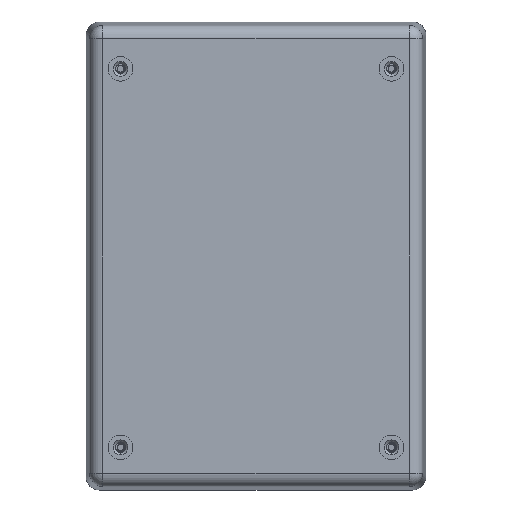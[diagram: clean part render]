
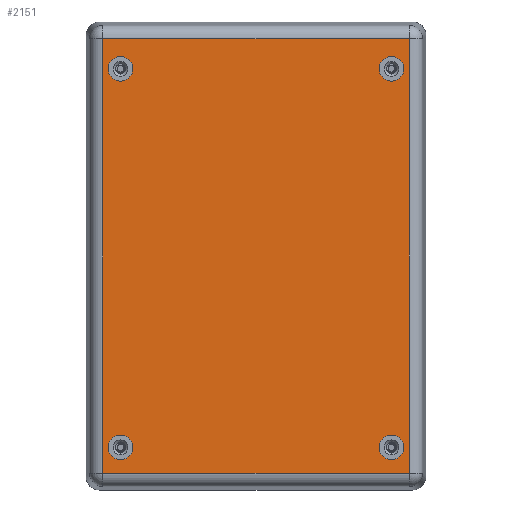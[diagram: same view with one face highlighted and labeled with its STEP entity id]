
A CAD part, front view. The second image highlights one B-rep face of the part: STEP entity #2151.
In plain terms, the highlighted planar face has unit normal (0, -1, 0).
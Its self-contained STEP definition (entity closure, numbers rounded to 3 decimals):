
#69 = CARTESIAN_POINT ( 'NONE',  ( -62.135, -44.5, 0. ) ) ;
#89 = VERTEX_POINT ( 'NONE', #13943 ) ;
#182 = CARTESIAN_POINT ( 'NONE',  ( 55., -44.5, 81. ) ) ;
#241 = EDGE_LOOP ( 'NONE', ( #7241, #12912 ) ) ;
#374 = DIRECTION ( 'NONE',  ( 0., 0., -1. ) ) ;
#388 = DIRECTION ( 'NONE',  ( 0., 0., -1. ) ) ;
#624 = ORIENTED_EDGE ( 'NONE', *, *, #13776, .T. ) ;
#735 = CARTESIAN_POINT ( 'NONE',  ( -55., -44.5, -82.7 ) ) ;
#783 = ORIENTED_EDGE ( 'NONE', *, *, #1990, .T. ) ;
#1033 = FACE_BOUND ( 'NONE', #241, .T. ) ;
#1038 = DIRECTION ( 'NONE',  ( 0., 0., -1. ) ) ;
#1122 = DIRECTION ( 'NONE',  ( 0., -1., 0. ) ) ;
#1351 = ORIENTED_EDGE ( 'NONE', *, *, #3649, .F. ) ;
#1359 = EDGE_CURVE ( 'NONE', #89, #14740, #11437, .T. ) ;
#1471 = CARTESIAN_POINT ( 'NONE',  ( 0., -44.5, 88.135 ) ) ;
#1603 = ORIENTED_EDGE ( 'NONE', *, *, #12258, .F. ) ;
#1675 = VERTEX_POINT ( 'NONE', #182 ) ;
#1754 = AXIS2_PLACEMENT_3D ( 'NONE', #10100, #3897, #10151 ) ;
#1765 = EDGE_CURVE ( 'NONE', #9024, #7697, #14102, .T. ) ;
#1822 = CARTESIAN_POINT ( 'NONE',  ( 62.135, -44.5, -88.135 ) ) ;
#1912 = DIRECTION ( 'NONE',  ( 1., 0., 0. ) ) ;
#1990 = EDGE_CURVE ( 'NONE', #7697, #15799, #5491, .T. ) ;
#2123 = CARTESIAN_POINT ( 'NONE',  ( -55., -44.5, -77.7 ) ) ;
#2151 = ADVANCED_FACE ( 'NONE', ( #4272, #1033, #10195, #13256, #3675 ), #7651, .T. ) ;
#2454 = EDGE_LOOP ( 'NONE', ( #14625, #1603 ) ) ;
#2470 = EDGE_CURVE ( 'NONE', #14098, #8438, #4582, .T. ) ;
#2744 = CARTESIAN_POINT ( 'NONE',  ( 0., -44.5, 0. ) ) ;
#2917 = VERTEX_POINT ( 'NONE', #6393 ) ;
#3007 = DIRECTION ( 'NONE',  ( 0., 0., -1. ) ) ;
#3191 = CIRCLE ( 'NONE', #1754, 5. ) ;
#3504 = VERTEX_POINT ( 'NONE', #1822 ) ;
#3649 = EDGE_CURVE ( 'NONE', #6612, #2917, #12196, .T. ) ;
#3675 = FACE_OUTER_BOUND ( 'NONE', #10745, .T. ) ;
#3897 = DIRECTION ( 'NONE',  ( 0., -1., 0. ) ) ;
#4045 = EDGE_CURVE ( 'NONE', #8438, #14098, #3191, .T. ) ;
#4272 = FACE_BOUND ( 'NONE', #2454, .T. ) ;
#4354 = CARTESIAN_POINT ( 'NONE',  ( -55., -44.5, 76. ) ) ;
#4464 = ORIENTED_EDGE ( 'NONE', *, *, #4704, .F. ) ;
#4582 = CIRCLE ( 'NONE', #8190, 5. ) ;
#4704 = EDGE_CURVE ( 'NONE', #14740, #89, #12564, .T. ) ;
#4916 = VECTOR ( 'NONE', #8547, 1000. ) ;
#5030 = LINE ( 'NONE', #11656, #11918 ) ;
#5128 = ORIENTED_EDGE ( 'NONE', *, *, #1765, .T. ) ;
#5283 = CARTESIAN_POINT ( 'NONE',  ( -62.135, -44.5, 88.135 ) ) ;
#5491 = LINE ( 'NONE', #69, #4916 ) ;
#5542 = AXIS2_PLACEMENT_3D ( 'NONE', #9103, #13863, #3007 ) ;
#6393 = CARTESIAN_POINT ( 'NONE',  ( -55., -44.5, -72.7 ) ) ;
#6532 = CARTESIAN_POINT ( 'NONE',  ( 55., -44.5, 76. ) ) ;
#6612 = VERTEX_POINT ( 'NONE', #735 ) ;
#6697 = CARTESIAN_POINT ( 'NONE',  ( 55., -44.5, -82.7 ) ) ;
#6698 = VECTOR ( 'NONE', #1912, 1000. ) ;
#6804 = CARTESIAN_POINT ( 'NONE',  ( -55., -44.5, -77.7 ) ) ;
#7241 = ORIENTED_EDGE ( 'NONE', *, *, #2470, .F. ) ;
#7651 = PLANE ( 'NONE',  #14918 ) ;
#7697 = VERTEX_POINT ( 'NONE', #5283 ) ;
#7700 = DIRECTION ( 'NONE',  ( 0., -1., 0. ) ) ;
#7837 = LINE ( 'NONE', #14209, #6698 ) ;
#7853 = DIRECTION ( 'NONE',  ( 0., -1., 0. ) ) ;
#7981 = EDGE_LOOP ( 'NONE', ( #14844, #4464 ) ) ;
#8026 = DIRECTION ( 'NONE',  ( 0., 0., -1. ) ) ;
#8119 = DIRECTION ( 'NONE',  ( 0., 0., 1. ) ) ;
#8190 = AXIS2_PLACEMENT_3D ( 'NONE', #13607, #13827, #374 ) ;
#8438 = VERTEX_POINT ( 'NONE', #10285 ) ;
#8547 = DIRECTION ( 'NONE',  ( 0., 0., -1. ) ) ;
#8719 = AXIS2_PLACEMENT_3D ( 'NONE', #2123, #15758, #1038 ) ;
#9024 = VERTEX_POINT ( 'NONE', #12408 ) ;
#9085 = DIRECTION ( 'NONE',  ( 0., 0., -1. ) ) ;
#9103 = CARTESIAN_POINT ( 'NONE',  ( -55., -44.5, 76. ) ) ;
#9935 = AXIS2_PLACEMENT_3D ( 'NONE', #6532, #7853, #9085 ) ;
#10076 = CARTESIAN_POINT ( 'NONE',  ( -55., -44.5, 81. ) ) ;
#10099 = VECTOR ( 'NONE', #13544, 1000. ) ;
#10100 = CARTESIAN_POINT ( 'NONE',  ( 55., -44.5, -77.7 ) ) ;
#10151 = DIRECTION ( 'NONE',  ( 0., 0., -1. ) ) ;
#10195 = FACE_BOUND ( 'NONE', #10607, .T. ) ;
#10198 = CIRCLE ( 'NONE', #11673, 5. ) ;
#10285 = CARTESIAN_POINT ( 'NONE',  ( 55., -44.5, -72.7 ) ) ;
#10473 = DIRECTION ( 'NONE',  ( 0., -1., 0. ) ) ;
#10607 = EDGE_LOOP ( 'NONE', ( #1351, #11934 ) ) ;
#10712 = EDGE_CURVE ( 'NONE', #3504, #9024, #5030, .T. ) ;
#10745 = EDGE_LOOP ( 'NONE', ( #14700, #5128, #783, #624 ) ) ;
#10777 = CARTESIAN_POINT ( 'NONE',  ( 55., -44.5, 76. ) ) ;
#10921 = DIRECTION ( 'NONE',  ( 0., 0., -1. ) ) ;
#11120 = AXIS2_PLACEMENT_3D ( 'NONE', #4354, #12911, #8026 ) ;
#11249 = CIRCLE ( 'NONE', #8719, 5. ) ;
#11437 = CIRCLE ( 'NONE', #11120, 5. ) ;
#11656 = CARTESIAN_POINT ( 'NONE',  ( 62.135, -44.5, 0. ) ) ;
#11659 = DIRECTION ( 'NONE',  ( 0., 0., -1. ) ) ;
#11673 = AXIS2_PLACEMENT_3D ( 'NONE', #10777, #1122, #10921 ) ;
#11843 = CARTESIAN_POINT ( 'NONE',  ( 55., -44.5, 71. ) ) ;
#11918 = VECTOR ( 'NONE', #8119, 1000. ) ;
#11934 = ORIENTED_EDGE ( 'NONE', *, *, #14262, .F. ) ;
#12196 = CIRCLE ( 'NONE', #15774, 5. ) ;
#12258 = EDGE_CURVE ( 'NONE', #1675, #12886, #10198, .T. ) ;
#12408 = CARTESIAN_POINT ( 'NONE',  ( 62.135, -44.5, 88.135 ) ) ;
#12564 = CIRCLE ( 'NONE', #5542, 5. ) ;
#12886 = VERTEX_POINT ( 'NONE', #11843 ) ;
#12911 = DIRECTION ( 'NONE',  ( 0., -1., 0. ) ) ;
#12912 = ORIENTED_EDGE ( 'NONE', *, *, #4045, .F. ) ;
#13020 = CIRCLE ( 'NONE', #9935, 5. ) ;
#13256 = FACE_BOUND ( 'NONE', #7981, .T. ) ;
#13544 = DIRECTION ( 'NONE',  ( -1., 0., 0. ) ) ;
#13571 = EDGE_CURVE ( 'NONE', #12886, #1675, #13020, .T. ) ;
#13607 = CARTESIAN_POINT ( 'NONE',  ( 55., -44.5, -77.7 ) ) ;
#13776 = EDGE_CURVE ( 'NONE', #15799, #3504, #7837, .T. ) ;
#13827 = DIRECTION ( 'NONE',  ( 0., -1., 0. ) ) ;
#13863 = DIRECTION ( 'NONE',  ( 0., -1., 0. ) ) ;
#13943 = CARTESIAN_POINT ( 'NONE',  ( -55., -44.5, 71. ) ) ;
#14098 = VERTEX_POINT ( 'NONE', #6697 ) ;
#14102 = LINE ( 'NONE', #1471, #10099 ) ;
#14209 = CARTESIAN_POINT ( 'NONE',  ( 0., -44.5, -88.135 ) ) ;
#14262 = EDGE_CURVE ( 'NONE', #2917, #6612, #11249, .T. ) ;
#14625 = ORIENTED_EDGE ( 'NONE', *, *, #13571, .F. ) ;
#14700 = ORIENTED_EDGE ( 'NONE', *, *, #10712, .T. ) ;
#14740 = VERTEX_POINT ( 'NONE', #10076 ) ;
#14844 = ORIENTED_EDGE ( 'NONE', *, *, #1359, .F. ) ;
#14918 = AXIS2_PLACEMENT_3D ( 'NONE', #2744, #7700, #388 ) ;
#15750 = CARTESIAN_POINT ( 'NONE',  ( -62.135, -44.5, -88.135 ) ) ;
#15758 = DIRECTION ( 'NONE',  ( 0., -1., 0. ) ) ;
#15774 = AXIS2_PLACEMENT_3D ( 'NONE', #6804, #10473, #11659 ) ;
#15799 = VERTEX_POINT ( 'NONE', #15750 ) ;
